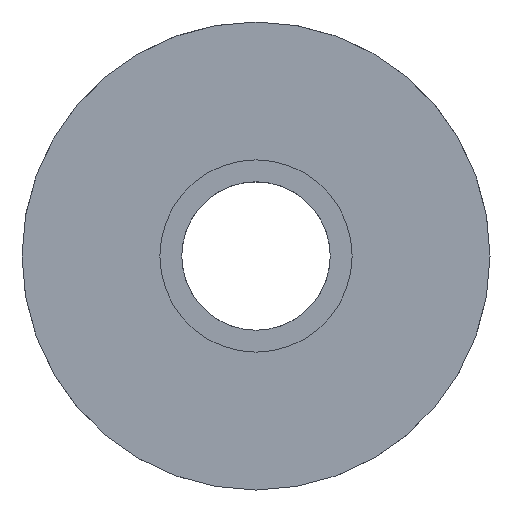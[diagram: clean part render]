
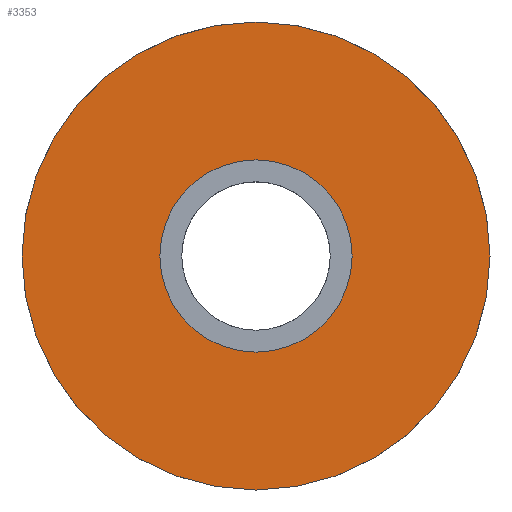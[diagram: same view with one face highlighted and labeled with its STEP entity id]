
A CAD part, front view. The second image highlights one B-rep face of the part: STEP entity #3353.
In plain terms, the highlighted planar face has unit normal (0, -1, 0).
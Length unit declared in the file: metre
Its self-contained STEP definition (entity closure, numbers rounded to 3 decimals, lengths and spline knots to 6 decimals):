
#366=CIRCLE('',#3804,0.015457);
#367=CIRCLE('',#3806,0.00635);
#1200=ORIENTED_EDGE('',*,*,#1827,.F.);
#1201=ORIENTED_EDGE('',*,*,#1826,.T.);
#1826=EDGE_CURVE('',#2154,#2154,#366,.T.);
#1827=EDGE_CURVE('',#2155,#2155,#367,.T.);
#2154=VERTEX_POINT('',#5908);
#2155=VERTEX_POINT('',#5911);
#2841=EDGE_LOOP('',(#1200));
#2842=EDGE_LOOP('',(#1201));
#3055=FACE_BOUND('',#2841,.T.);
#3056=FACE_BOUND('',#2842,.T.);
#3163=PLANE('',#3805);
#3353=ADVANCED_FACE('',(#3055,#3056),#3163,.T.);
#3804=AXIS2_PLACEMENT_3D('',#5907,#4882,#4883);
#3805=AXIS2_PLACEMENT_3D('',#5909,#4884,#4885);
#3806=AXIS2_PLACEMENT_3D('',#5910,#4886,#4887);
#4882=DIRECTION('',(0.,-1.,0.));
#4883=DIRECTION('',(0.,0.,-1.));
#4884=DIRECTION('',(0.,-1.,0.));
#4885=DIRECTION('',(1.,0.,0.));
#4886=DIRECTION('',(0.,-1.,0.));
#4887=DIRECTION('',(0.,0.,-1.));
#5907=CARTESIAN_POINT('',(0.,-0.007938,0.));
#5908=CARTESIAN_POINT('',(0.,-0.007938,-0.015457));
#5909=CARTESIAN_POINT('',(0.,-0.007938,0.));
#5910=CARTESIAN_POINT('',(0.,-0.007938,0.));
#5911=CARTESIAN_POINT('',(0.,-0.007938,-0.00635));
